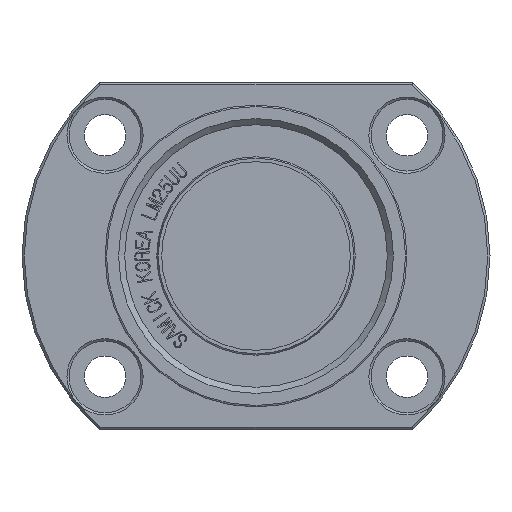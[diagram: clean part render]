
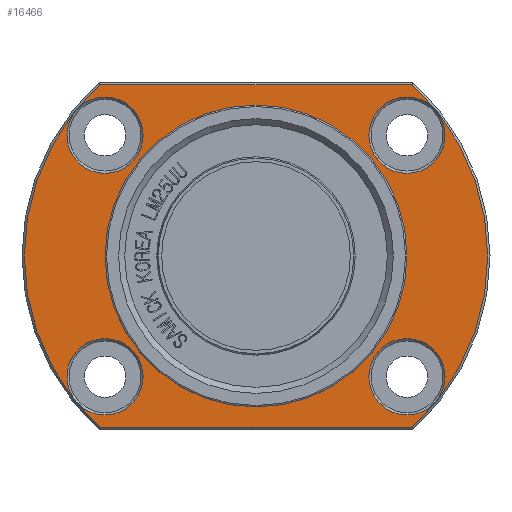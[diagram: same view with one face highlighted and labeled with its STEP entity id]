
A CAD part, front view. The second image highlights one B-rep face of the part: STEP entity #16466.
In plain terms, the highlighted planar face has unit normal (0, -1, 0).
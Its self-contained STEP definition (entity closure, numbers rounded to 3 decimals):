
#2701=FACE_BOUND('',#3891,.T.);
#2702=FACE_BOUND('',#3892,.T.);
#2703=FACE_BOUND('',#3893,.T.);
#2704=FACE_BOUND('',#3894,.T.);
#2705=FACE_BOUND('',#3895,.T.);
#2763=PLANE('',#17375);
#3004=FACE_OUTER_BOUND('',#3890,.T.);
#3890=EDGE_LOOP('',(#11458,#11459,#11460,#11461));
#3891=EDGE_LOOP('',(#11462));
#3892=EDGE_LOOP('',(#11463));
#3893=EDGE_LOOP('',(#11464,#11465));
#3894=EDGE_LOOP('',(#11466));
#3895=EDGE_LOOP('',(#11467));
#4838=LINE('',#19637,#6022);
#4839=LINE('',#19641,#6023);
#6022=VECTOR('',#17740,10.);
#6023=VECTOR('',#17743,10.);
#7205=CIRCLE('',#17372,5.05);
#7208=CIRCLE('',#17376,30.7);
#7209=CIRCLE('',#17377,30.7);
#7210=CIRCLE('',#17378,5.05);
#7211=CIRCLE('',#17379,5.05);
#7212=CIRCLE('',#17380,20.);
#7213=CIRCLE('',#17381,20.);
#7214=CIRCLE('',#17382,5.05);
#7287=VERTEX_POINT('',#19627);
#7290=VERTEX_POINT('',#19635);
#7291=VERTEX_POINT('',#19636);
#7292=VERTEX_POINT('',#19638);
#7293=VERTEX_POINT('',#19640);
#7294=VERTEX_POINT('',#19643);
#7295=VERTEX_POINT('',#19645);
#7296=VERTEX_POINT('',#19647);
#7297=VERTEX_POINT('',#19648);
#7298=VERTEX_POINT('',#19651);
#8955=EDGE_CURVE('',#7287,#7287,#7205,.T.);
#8959=EDGE_CURVE('',#7290,#7291,#4838,.T.);
#8960=EDGE_CURVE('',#7290,#7292,#7208,.T.);
#8961=EDGE_CURVE('',#7293,#7292,#4839,.T.);
#8962=EDGE_CURVE('',#7293,#7291,#7209,.T.);
#8963=EDGE_CURVE('',#7294,#7294,#7210,.T.);
#8964=EDGE_CURVE('',#7295,#7295,#7211,.T.);
#8965=EDGE_CURVE('',#7296,#7297,#7212,.T.);
#8966=EDGE_CURVE('',#7297,#7296,#7213,.T.);
#8967=EDGE_CURVE('',#7298,#7298,#7214,.T.);
#11458=ORIENTED_EDGE('',*,*,#8959,.F.);
#11459=ORIENTED_EDGE('',*,*,#8960,.T.);
#11460=ORIENTED_EDGE('',*,*,#8961,.F.);
#11461=ORIENTED_EDGE('',*,*,#8962,.T.);
#11462=ORIENTED_EDGE('',*,*,#8963,.F.);
#11463=ORIENTED_EDGE('',*,*,#8964,.F.);
#11464=ORIENTED_EDGE('',*,*,#8965,.F.);
#11465=ORIENTED_EDGE('',*,*,#8966,.F.);
#11466=ORIENTED_EDGE('',*,*,#8967,.F.);
#11467=ORIENTED_EDGE('',*,*,#8955,.F.);
#16466=ADVANCED_FACE('',(#3004,#2701,#2702,#2703,#2704,#2705),#2763,.T.);
#17372=AXIS2_PLACEMENT_3D('',#19628,#17731,#17732);
#17375=AXIS2_PLACEMENT_3D('',#19634,#17738,#17739);
#17376=AXIS2_PLACEMENT_3D('',#19639,#17741,#17742);
#17377=AXIS2_PLACEMENT_3D('',#19642,#17744,#17745);
#17378=AXIS2_PLACEMENT_3D('',#19644,#17746,#17747);
#17379=AXIS2_PLACEMENT_3D('',#19646,#17748,#17749);
#17380=AXIS2_PLACEMENT_3D('',#19649,#17750,#17751);
#17381=AXIS2_PLACEMENT_3D('',#19650,#17752,#17753);
#17382=AXIS2_PLACEMENT_3D('',#19652,#17754,#17755);
#17731=DIRECTION('center_axis',(0.,-1.,0.));
#17732=DIRECTION('ref_axis',(-1.,0.,0.));
#17738=DIRECTION('center_axis',(0.,-1.,0.));
#17739=DIRECTION('ref_axis',(0.,0.,-1.));
#17740=DIRECTION('',(-1.,0.,0.));
#17741=DIRECTION('center_axis',(0.,-1.,0.));
#17742=DIRECTION('ref_axis',(1.,0.,0.));
#17743=DIRECTION('',(1.,0.,0.));
#17744=DIRECTION('center_axis',(0.,-1.,0.));
#17745=DIRECTION('ref_axis',(1.,0.,0.));
#17746=DIRECTION('center_axis',(0.,-1.,0.));
#17747=DIRECTION('ref_axis',(-1.,0.,0.));
#17748=DIRECTION('center_axis',(0.,-1.,0.));
#17749=DIRECTION('ref_axis',(-1.,0.,0.));
#17750=DIRECTION('center_axis',(0.,-1.,0.));
#17751=DIRECTION('ref_axis',(1.,0.,0.));
#17752=DIRECTION('center_axis',(0.,-1.,0.));
#17753=DIRECTION('ref_axis',(1.,0.,0.));
#17754=DIRECTION('center_axis',(0.,-1.,0.));
#17755=DIRECTION('ref_axis',(-1.,0.,0.));
#19627=CARTESIAN_POINT('',(25.05,-29.5,16.));
#19628=CARTESIAN_POINT('Origin',(20.,-29.5,16.));
#19634=CARTESIAN_POINT('Origin',(25.35,-29.5,0.));
#19635=CARTESIAN_POINT('',(20.669,-29.5,-22.7));
#19636=CARTESIAN_POINT('',(-20.669,-29.5,-22.7));
#19637=CARTESIAN_POINT('',(30.175,-29.5,-22.7));
#19638=CARTESIAN_POINT('',(20.669,-29.5,22.7));
#19639=CARTESIAN_POINT('Origin',(0.,-29.5,0.));
#19640=CARTESIAN_POINT('',(-20.669,-29.5,22.7));
#19641=CARTESIAN_POINT('',(-4.825,-29.5,22.7));
#19642=CARTESIAN_POINT('Origin',(0.,-29.5,0.));
#19643=CARTESIAN_POINT('',(25.05,-29.5,-16.));
#19644=CARTESIAN_POINT('Origin',(20.,-29.5,-16.));
#19645=CARTESIAN_POINT('',(-14.95,-29.5,16.));
#19646=CARTESIAN_POINT('Origin',(-20.,-29.5,16.));
#19647=CARTESIAN_POINT('',(20.,-29.5,0.));
#19648=CARTESIAN_POINT('',(-20.,-29.5,0.));
#19649=CARTESIAN_POINT('Origin',(0.,-29.5,0.));
#19650=CARTESIAN_POINT('Origin',(0.,-29.5,0.));
#19651=CARTESIAN_POINT('',(-14.95,-29.5,-16.));
#19652=CARTESIAN_POINT('Origin',(-20.,-29.5,-16.));
